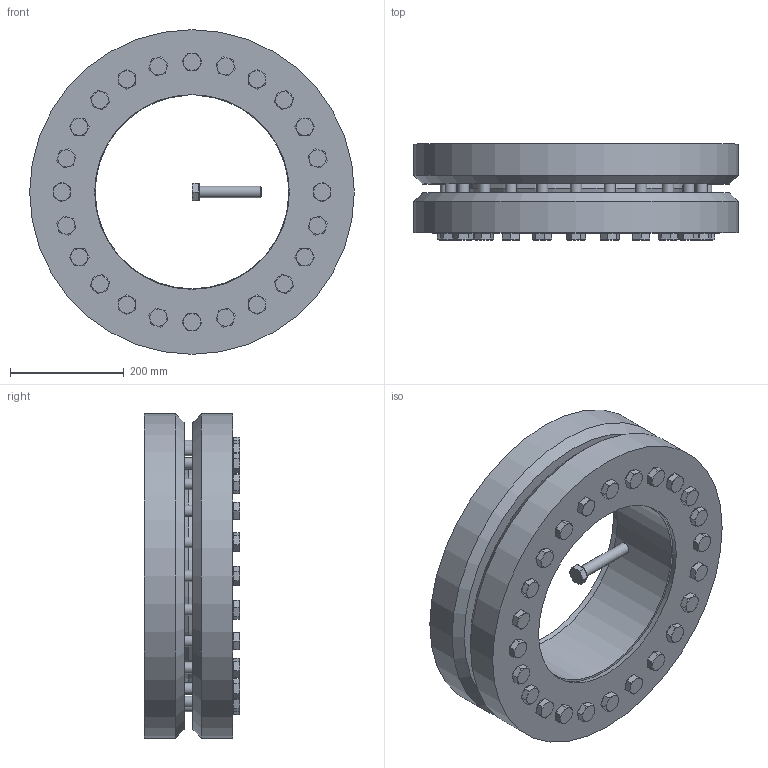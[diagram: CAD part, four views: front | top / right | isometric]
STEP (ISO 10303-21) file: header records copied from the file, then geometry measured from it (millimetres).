
FILE_DESCRIPTION( ( 'Unknown' ), '1' );
FILE_NAME( 'C:/Dokumente und Einstellungen/Sven/Desktop/homepage/cad - homepage/KBS19/KBS 19 - 340 x 570.stp', 'Unknown', ( 'Unknown' ), ( 'Unknown' ), 'XStep 1.0', 'Unknown', ' ' );
FILE_SCHEMA( ( 'automotive_design' ) );
Length unit declared in the file: millimetre
Products named in the file (3): Assem1; KBS 19 - 340 x 570; ISO 4017 - M20 x 110-N
Bounding box: 570 x 168.5 x 570 mm (x, y, z)
Volume: 44909970 mm3; surface area: 2661214.9 mm2
Topology: 27 solids, 27 shells, 767 faces, 1794 edges, 1106 vertices
Faces by surface type: plane 403, cone 187, cylinder 152, torus 25
Full cylindrical faces by diameter (mm): 20 x121, 30 x25, 570 x4
Entity records: 3672 total; most frequent: DIRECTION 550, CARTESIAN_POINT 541, ORIENTED_EDGE 380, EDGE_LOOP 255, AXIS2_PLACEMENT_3D 254, EDGE_CURVE 190, VERTEX_POINT 157, FACE_OUTER_BOUND 149
